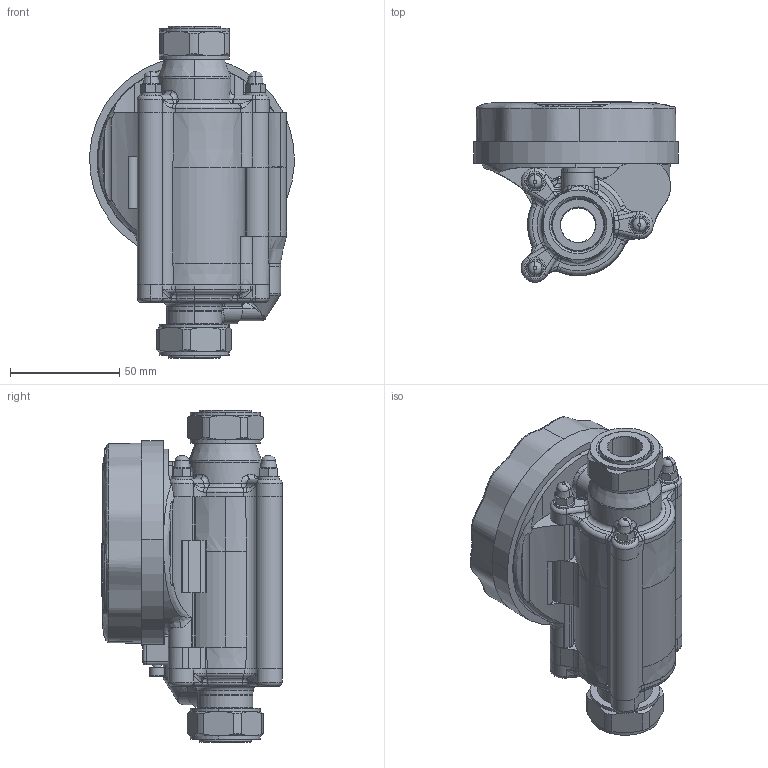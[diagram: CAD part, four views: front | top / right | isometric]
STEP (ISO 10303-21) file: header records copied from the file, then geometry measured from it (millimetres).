
FILE_DESCRIPTION (( 'STEP AP214' ), '1' );
FILE_NAME ('PAP-S020 3D.STEP', '2020-01-31T15:03:37', ( 'Windows User' ), ( 'Watts Water' ), 'SwSTEP 2.0', 'SolidWorks 2017', '' );
FILE_SCHEMA (( 'AUTOMOTIVE_DESIGN' ));
Length unit declared in the file: millimetre
Products named in the file (1): PAP-S020 3D
Bounding box: 93.93 x 82.65 x 152.2 mm (x, y, z)
Surface area: 79621.8 mm2 (no closed solid volume)
Topology: 0 solids, 34 shells, 759 faces, 2391 edges, 1598 vertices
Faces by surface type: plane 241, cylinder 202, bspline 112, torus 92, cone 84, sphere 28
Entity records: 55068 total; most frequent: CARTESIAN_POINT 26881, ORIENTED_EDGE 4020, DIRECTION 3962, EDGE_CURVE 2363, VERTEX_POINT 1596, AXIS2_PLACEMENT_3D 1549, CIRCLE 901, LINE 864
